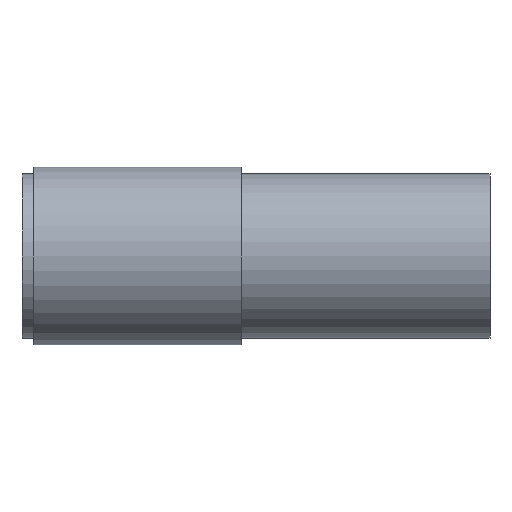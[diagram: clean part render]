
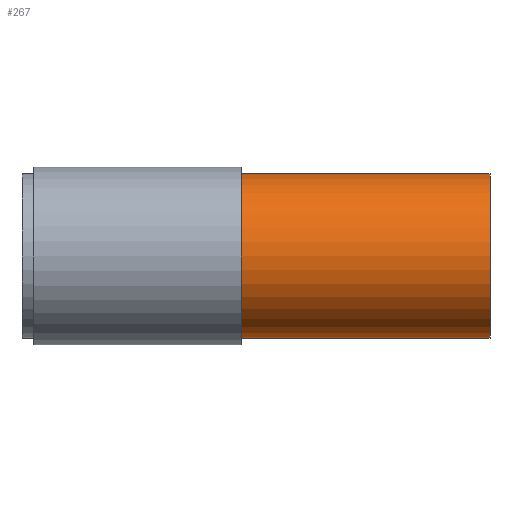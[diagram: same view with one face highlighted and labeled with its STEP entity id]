
A CAD part, left-side view. The second image highlights one B-rep face of the part: STEP entity #267.
In plain terms, the highlighted cylindrical face has radius 13.9 mm (diameter 27.8 mm), a partial arc.
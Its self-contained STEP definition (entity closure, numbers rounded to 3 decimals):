
#19 = ORIENTED_EDGE ( 'NONE', *, *, #225, .F. ) ;
#21 = VERTEX_POINT ( 'NONE', #296 ) ;
#28 = VERTEX_POINT ( 'NONE', #282 ) ;
#49 = ORIENTED_EDGE ( 'NONE', *, *, #254, .F. ) ;
#52 = ORIENTED_EDGE ( 'NONE', *, *, #257, .T. ) ;
#63 = VERTEX_POINT ( 'NONE', #310 ) ;
#66 = VERTEX_POINT ( 'NONE', #291 ) ;
#82 = ORIENTED_EDGE ( 'NONE', *, *, #227, .T. ) ;
#117 = EDGE_LOOP ( 'NONE', ( #49, #82, #52, #19 ) ) ;
#131 = CYLINDRICAL_SURFACE ( 'NONE', #218, 13.9 ) ;
#132 = LINE ( 'NONE', #383, #163 ) ;
#150 = LINE ( 'NONE', #380, #152 ) ;
#152 = VECTOR ( 'NONE', #359, 1000. ) ;
#153 = FACE_OUTER_BOUND ( 'NONE', #117, .T. ) ;
#163 = VECTOR ( 'NONE', #365, 1000. ) ;
#179 = CIRCLE ( 'NONE', #237, 13.9 ) ;
#181 = CIRCLE ( 'NONE', #252, 13.9 ) ;
#218 = AXIS2_PLACEMENT_3D ( 'NONE', #399, #376, #381 ) ;
#225 = EDGE_CURVE ( 'NONE', #21, #28, #179, .T. ) ;
#227 = EDGE_CURVE ( 'NONE', #66, #63, #181, .T. ) ;
#237 = AXIS2_PLACEMENT_3D ( 'NONE', #391, #390, #404 ) ;
#252 = AXIS2_PLACEMENT_3D ( 'NONE', #402, #369, #364 ) ;
#254 = EDGE_CURVE ( 'NONE', #66, #21, #132, .T. ) ;
#257 = EDGE_CURVE ( 'NONE', #63, #28, #150, .T. ) ;
#267 = ADVANCED_FACE ( 'NONE', ( #153 ), #131, .T. ) ;
#282 = CARTESIAN_POINT ( 'NONE',  ( 0., -7.025, -13.9 ) ) ;
#291 = CARTESIAN_POINT ( 'NONE',  ( 0., 34.975, 13.9 ) ) ;
#296 = CARTESIAN_POINT ( 'NONE',  ( 0., -7.025, 13.9 ) ) ;
#310 = CARTESIAN_POINT ( 'NONE',  ( 0., 34.975, -13.9 ) ) ;
#359 = DIRECTION ( 'NONE',  ( 0., -1., 0. ) ) ;
#364 = DIRECTION ( 'NONE',  ( 0., 0., -1. ) ) ;
#365 = DIRECTION ( 'NONE',  ( 0., -1., 0. ) ) ;
#369 = DIRECTION ( 'NONE',  ( 0., -1., 0. ) ) ;
#376 = DIRECTION ( 'NONE',  ( 0., -1., 0. ) ) ;
#380 = CARTESIAN_POINT ( 'NONE',  ( 0., 0., -13.9 ) ) ;
#381 = DIRECTION ( 'NONE',  ( 0., 0., -1. ) ) ;
#383 = CARTESIAN_POINT ( 'NONE',  ( 0., 0., 13.9 ) ) ;
#390 = DIRECTION ( 'NONE',  ( 0., -1., 0. ) ) ;
#391 = CARTESIAN_POINT ( 'NONE',  ( 0., -7.025, 0. ) ) ;
#399 = CARTESIAN_POINT ( 'NONE',  ( 0., 0., 0. ) ) ;
#402 = CARTESIAN_POINT ( 'NONE',  ( 0., 34.975, 0. ) ) ;
#404 = DIRECTION ( 'NONE',  ( 0., 0., -1. ) ) ;
